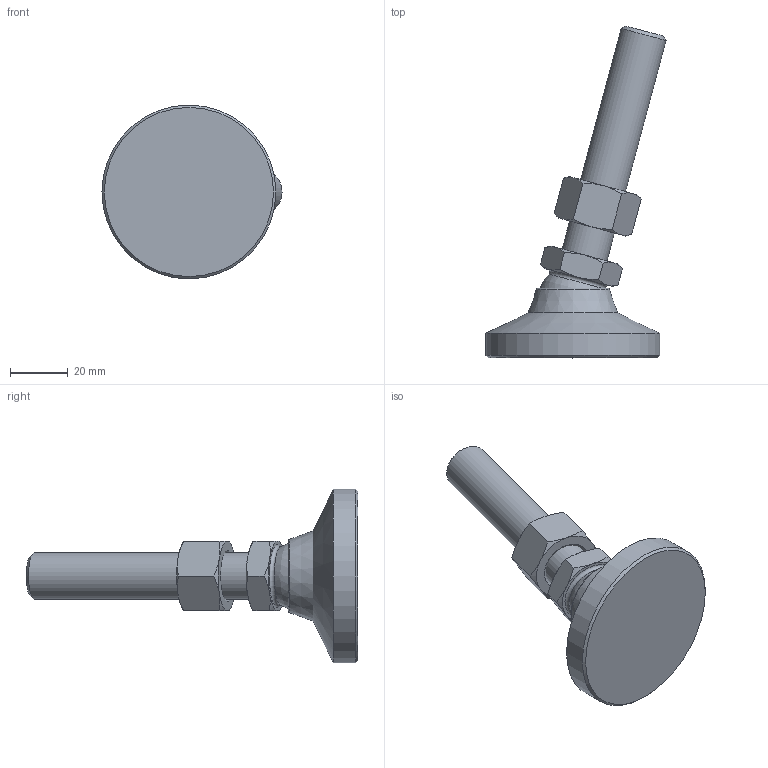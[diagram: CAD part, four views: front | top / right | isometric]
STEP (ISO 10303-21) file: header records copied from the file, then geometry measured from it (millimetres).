
FILE_DESCRIPTION( ( 'STEP AP214' ), ' ' );
FILE_NAME( 'O:/ganter_2015/teil_2/2_5/gn343_2/gn343_2_os/Levelling foot with threaded stud GN 343.2-60-M16-80-OS-(-15).stp', '2015-10-26T09:08:29', ( '' ), ( '' ), ' ', 'PARTsolutions', ' ' );
FILE_SCHEMA( ( 'AUTOMOTIVE_DESIGN { 1 0 10303 214 1 1 1 1 }' ) );
Length unit declared in the file: millimetre
Products named in the file (4): Levelling foot with threaded stud GN 343.2-60-M16-80-OS-(-15); _Levelling foot with threaded stud GN 343.2-60-M16-80-OS-(-15)_foot; _Levelling foot with threaded stud GN 343.2-60-M16-80-OS-(-15)_screw; _Stainless Steel-Levelling feet GN 343.2-60-M16-80-OS-(-15)_nut
Assembly tree (3 placements, depth 2):
  Levelling foot with threaded stud GN 343.2-60-M16-80-OS-(-15)
    _Levelling foot with threaded stud GN 343.2-60-M16-80-OS-(-15)_foot
    _Levelling foot with threaded stud GN 343.2-60-M16-80-OS-(-15)_screw
    _Stainless Steel-Levelling feet GN 343.2-60-M16-80-OS-(-15)_nut
Bounding box: 62.12 x 114.51 x 60 mm (x, y, z)
Volume: 67427.3 mm3; surface area: 17762.1 mm2
Topology: 3 solids, 3 shells, 56 faces, 117 edges, 68 vertices
Faces by surface type: cone 30, plane 19, cylinder 3, torus 2, sphere 2
Full cylindrical faces by diameter (mm): 13.835 x1, 16 x1, 60 x1
Entity records: 2082 total; most frequent: CARTESIAN_POINT 514, DIRECTION 212, ORIENTED_EDGE 200, AXIS2_PLACEMENT_3D 100, EDGE_CURVE 100, EDGE_LOOP 72, VERTEX_POINT 66, FACE_OUTER_BOUND 61
